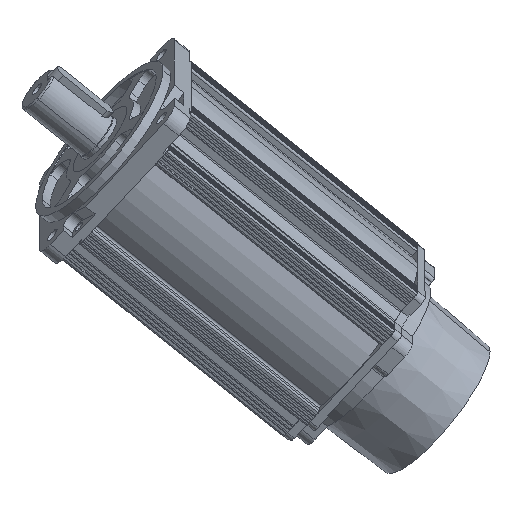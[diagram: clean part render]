
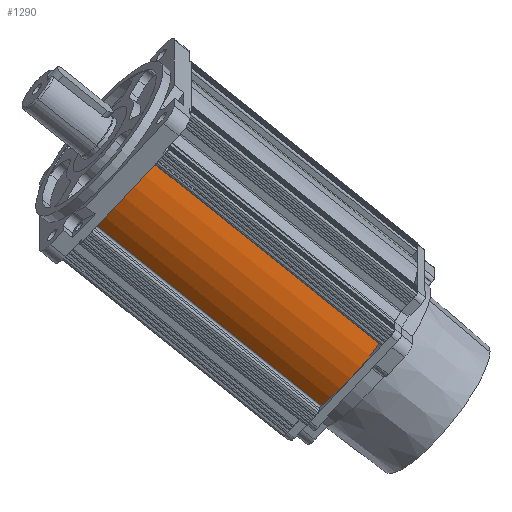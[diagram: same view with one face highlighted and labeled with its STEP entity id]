
A CAD part, top view. The second image highlights one B-rep face of the part: STEP entity #1290.
In plain terms, the highlighted cylindrical face has radius 50 mm (diameter 100 mm), a partial arc.
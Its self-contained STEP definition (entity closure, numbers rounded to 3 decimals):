
#1071 = EDGE_CURVE ( 'NONE', #6385, #9167, #1428, .T. ) ;
#1112 = AXIS2_PLACEMENT_3D ( 'NONE', #10585, #10754, #14401 ) ;
#1290 = ADVANCED_FACE ( 'NONE', ( #13292 ), #17746, .T. ) ;
#1428 = CIRCLE ( 'NONE', #8430, 50. ) ;
#1802 = CARTESIAN_POINT ( 'NONE',  ( 165.014, -19.376, 46.121 ) ) ;
#2159 = EDGE_CURVE ( 'NONE', #9426, #6385, #6728, .T. ) ;
#2365 = VECTOR ( 'NONE', #14775, 1000. ) ;
#2508 = EDGE_CURVE ( 'NONE', #9426, #21572, #15003, .T. ) ;
#3613 = CARTESIAN_POINT ( 'NONE',  ( 289.5, -109.869, 57.54 ) ) ;
#3713 = DIRECTION ( 'NONE',  ( -0.756, 0.605, 0.25 ) ) ;
#4256 = DIRECTION ( 'NONE',  ( 0.655, 0.699, 0.289 ) ) ;
#5261 = CARTESIAN_POINT ( 'NONE',  ( 179.134, -21.532, 94.037 ) ) ;
#6385 = VERTEX_POINT ( 'NONE', #12263 ) ;
#6728 = LINE ( 'NONE', #12597, #23112 ) ;
#8430 = AXIS2_PLACEMENT_3D ( 'NONE', #19400, #9860, #4256 ) ;
#8641 = DIRECTION ( 'NONE',  ( 0.756, -0.605, -0.25 ) ) ;
#9167 = VERTEX_POINT ( 'NONE', #3613 ) ;
#9426 = VERTEX_POINT ( 'NONE', #15627 ) ;
#9860 = DIRECTION ( 'NONE',  ( -0.756, 0.605, 0.25 ) ) ;
#10585 = CARTESIAN_POINT ( 'NONE',  ( 275.38, -107.713, 9.624 ) ) ;
#10684 = LINE ( 'NONE', #11120, #2365 ) ;
#10754 = DIRECTION ( 'NONE',  ( -0.756, 0.605, 0.25 ) ) ;
#11120 = CARTESIAN_POINT ( 'NONE',  ( 289.5, -109.869, 57.54 ) ) ;
#12263 = CARTESIAN_POINT ( 'NONE',  ( 261.26, -140.007, 45.089 ) ) ;
#12597 = CARTESIAN_POINT ( 'NONE',  ( 261.26, -140.007, 45.089 ) ) ;
#12790 = ORIENTED_EDGE ( 'NONE', *, *, #20604, .T. ) ;
#13201 = AXIS2_PLACEMENT_3D ( 'NONE', #1802, #3713, #16984 ) ;
#13292 = FACE_OUTER_BOUND ( 'NONE', #18994, .T. ) ;
#14401 = DIRECTION ( 'NONE',  ( 0.655, 0.699, 0.289 ) ) ;
#14775 = DIRECTION ( 'NONE',  ( -0.756, 0.605, 0.25 ) ) ;
#15003 = CIRCLE ( 'NONE', #13201, 50. ) ;
#15627 = CARTESIAN_POINT ( 'NONE',  ( 150.894, -51.67, 81.586 ) ) ;
#16551 = ORIENTED_EDGE ( 'NONE', *, *, #2508, .F. ) ;
#16984 = DIRECTION ( 'NONE',  ( 0.655, 0.699, 0.289 ) ) ;
#17746 = CYLINDRICAL_SURFACE ( 'NONE', #1112, 50. ) ;
#18994 = EDGE_LOOP ( 'NONE', ( #23751, #12790, #16551, #23340 ) ) ;
#19400 = CARTESIAN_POINT ( 'NONE',  ( 275.38, -107.713, 9.624 ) ) ;
#20604 = EDGE_CURVE ( 'NONE', #9167, #21572, #10684, .T. ) ;
#21572 = VERTEX_POINT ( 'NONE', #5261 ) ;
#23112 = VECTOR ( 'NONE', #8641, 1000. ) ;
#23340 = ORIENTED_EDGE ( 'NONE', *, *, #2159, .T. ) ;
#23751 = ORIENTED_EDGE ( 'NONE', *, *, #1071, .T. ) ;
